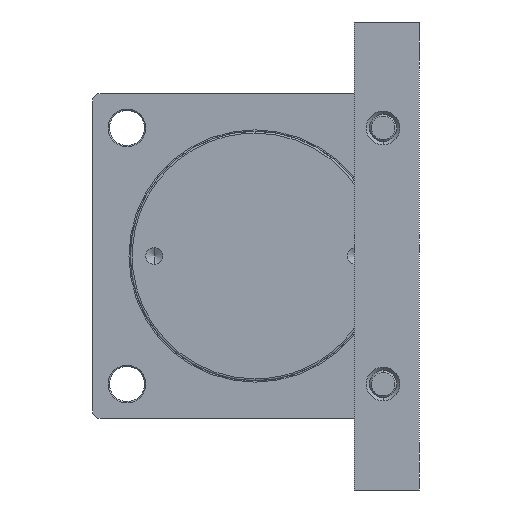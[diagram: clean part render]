
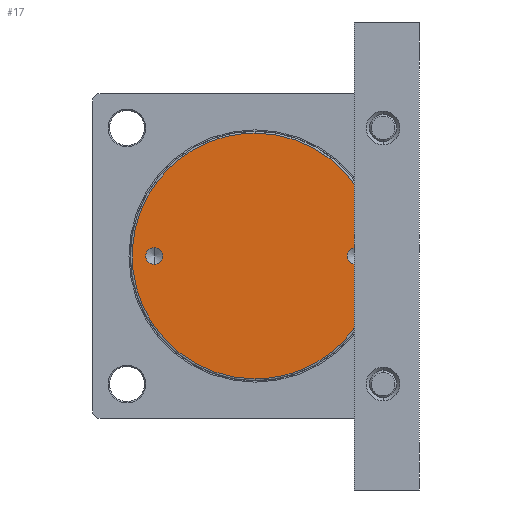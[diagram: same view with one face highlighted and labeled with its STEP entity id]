
A CAD part, left-side view. The second image highlights one B-rep face of the part: STEP entity #17.
In plain terms, the highlighted planar face has unit normal (-1, 0, 0).
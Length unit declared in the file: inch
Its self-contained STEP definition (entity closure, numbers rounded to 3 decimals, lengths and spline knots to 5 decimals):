
#17 = ADVANCED_FACE ( 'NONE', ( #13945, #14095, #13587 ), #13004, .F. ) ;
#265 = EDGE_LOOP ( 'NONE', ( #3309, #19836 ) ) ;
#1119 = CIRCLE ( 'NONE', #11652, 0.25591 ) ;
#1510 = ORIENTED_EDGE ( 'NONE', *, *, #15191, .F. ) ;
#1578 = CARTESIAN_POINT ( 'NONE',  ( -1.43701, 0., 3.72047 ) ) ;
#1613 = CARTESIAN_POINT ( 'NONE',  ( -1.43701, 0., -3.72047 ) ) ;
#1829 = AXIS2_PLACEMENT_3D ( 'NONE', #24599, #24556, #24524 ) ;
#1903 = CARTESIAN_POINT ( 'NONE',  ( -1.43701, 7.44094, -3.72047 ) ) ;
#2049 = CARTESIAN_POINT ( 'NONE',  ( -1.43701, 7.44094, 3.72047 ) ) ;
#2308 = ORIENTED_EDGE ( 'NONE', *, *, #15334, .F. ) ;
#3309 = ORIENTED_EDGE ( 'NONE', *, *, #10534, .F. ) ;
#4168 = CARTESIAN_POINT ( 'NONE',  ( -1.43701, -3.05118, 0. ) ) ;
#4443 =( BOUNDED_CURVE ( )  B_SPLINE_CURVE ( 3, ( #15209, #14913, #14767, #14741 ),
 .UNSPECIFIED., .F., .F. ) 
 B_SPLINE_CURVE_WITH_KNOTS ( ( 4, 4 ),
 ( 0., 1. ),
 .UNSPECIFIED. ) 
 CURVE ( )  GEOMETRIC_REPRESENTATION_ITEM ( )  RATIONAL_B_SPLINE_CURVE ( ( 1., 0.333, 0.333, 1. ) ) 
 REPRESENTATION_ITEM ( '' )  );
#6068 = VERTEX_POINT ( 'NONE', #8933 ) ;
#6888 = CARTESIAN_POINT ( 'NONE',  ( -1.43701, 0., 3.72047 ) ) ;
#7840 = DIRECTION ( 'NONE',  ( -1., 0., 0. ) ) ;
#8039 = DIRECTION ( 'NONE',  ( 0., 0., 1. ) ) ;
#8060 = DIRECTION ( 'NONE',  ( -1., 0., 0. ) ) ;
#8090 = CARTESIAN_POINT ( 'NONE',  ( -1.43701, -3.05118, 0. ) ) ;
#8278 = CARTESIAN_POINT ( 'NONE',  ( -1.43701, -3.05118, 0.25591 ) ) ;
#8933 = CARTESIAN_POINT ( 'NONE',  ( -1.43701, 3.05118, 0.25591 ) ) ;
#10534 = EDGE_CURVE ( 'NONE', #15340, #18687, #13738, .T. ) ;
#10881 = CIRCLE ( 'NONE', #21407, 0.25591 ) ;
#11652 = AXIS2_PLACEMENT_3D ( 'NONE', #4168, #7840, #15035 ) ;
#12266 = VERTEX_POINT ( 'NONE', #23712 ) ;
#12881 = DIRECTION ( 'NONE',  ( 0., 0., -1. ) ) ;
#13004 = PLANE ( 'NONE',  #14330 ) ;
#13028 = DIRECTION ( 'NONE',  ( 1., 0., 0. ) ) ;
#13033 = CARTESIAN_POINT ( 'NONE',  ( -1.43701, 0., 0. ) ) ;
#13587 = FACE_OUTER_BOUND ( 'NONE', #265, .T. ) ;
#13700 = EDGE_CURVE ( 'NONE', #18687, #15340, #4443, .T. ) ;
#13736 = EDGE_LOOP ( 'NONE', ( #1510, #2308 ) ) ;
#13738 =( BOUNDED_CURVE ( )  B_SPLINE_CURVE ( 3, ( #1613, #1903, #2049, #1578 ),
 .UNSPECIFIED., .F., .F. ) 
 B_SPLINE_CURVE_WITH_KNOTS ( ( 4, 4 ),
 ( 0., 1. ),
 .UNSPECIFIED. ) 
 CURVE ( )  GEOMETRIC_REPRESENTATION_ITEM ( )  RATIONAL_B_SPLINE_CURVE ( ( 1., 0.333, 0.333, 1. ) ) 
 REPRESENTATION_ITEM ( '' )  );
#13945 = FACE_BOUND ( 'NONE', #13736, .T. ) ;
#14095 = FACE_BOUND ( 'NONE', #14326, .T. ) ;
#14189 = AXIS2_PLACEMENT_3D ( 'NONE', #21713, #21654, #21623 ) ;
#14326 = EDGE_LOOP ( 'NONE', ( #17806, #21331 ) ) ;
#14330 = AXIS2_PLACEMENT_3D ( 'NONE', #13033, #13028, #12881 ) ;
#14741 = CARTESIAN_POINT ( 'NONE',  ( -1.43701, 0., -3.72047 ) ) ;
#14767 = CARTESIAN_POINT ( 'NONE',  ( -1.43701, -7.44094, -3.72047 ) ) ;
#14913 = CARTESIAN_POINT ( 'NONE',  ( -1.43701, -7.44094, 3.72047 ) ) ;
#15035 = DIRECTION ( 'NONE',  ( 0., 0., 1. ) ) ;
#15191 = EDGE_CURVE ( 'NONE', #6068, #15348, #23035, .T. ) ;
#15209 = CARTESIAN_POINT ( 'NONE',  ( -1.43701, 0., 3.72047 ) ) ;
#15334 = EDGE_CURVE ( 'NONE', #15348, #6068, #23786, .T. ) ;
#15340 = VERTEX_POINT ( 'NONE', #21882 ) ;
#15348 = VERTEX_POINT ( 'NONE', #21539 ) ;
#15694 = EDGE_CURVE ( 'NONE', #17948, #12266, #10881, .T. ) ;
#17015 = EDGE_CURVE ( 'NONE', #12266, #17948, #1119, .T. ) ;
#17806 = ORIENTED_EDGE ( 'NONE', *, *, #15694, .F. ) ;
#17948 = VERTEX_POINT ( 'NONE', #8278 ) ;
#18687 = VERTEX_POINT ( 'NONE', #6888 ) ;
#19836 = ORIENTED_EDGE ( 'NONE', *, *, #13700, .F. ) ;
#21331 = ORIENTED_EDGE ( 'NONE', *, *, #17015, .F. ) ;
#21407 = AXIS2_PLACEMENT_3D ( 'NONE', #8090, #8060, #8039 ) ;
#21539 = CARTESIAN_POINT ( 'NONE',  ( -1.43701, 3.05118, -0.25591 ) ) ;
#21623 = DIRECTION ( 'NONE',  ( 0., 0., 1. ) ) ;
#21654 = DIRECTION ( 'NONE',  ( -1., 0., 0. ) ) ;
#21713 = CARTESIAN_POINT ( 'NONE',  ( -1.43701, 3.05118, 0. ) ) ;
#21882 = CARTESIAN_POINT ( 'NONE',  ( -1.43701, 0., -3.72047 ) ) ;
#23035 = CIRCLE ( 'NONE', #1829, 0.25591 ) ;
#23712 = CARTESIAN_POINT ( 'NONE',  ( -1.43701, -3.05118, -0.25591 ) ) ;
#23786 = CIRCLE ( 'NONE', #14189, 0.25591 ) ;
#24524 = DIRECTION ( 'NONE',  ( 0., 0., 1. ) ) ;
#24556 = DIRECTION ( 'NONE',  ( -1., 0., 0. ) ) ;
#24599 = CARTESIAN_POINT ( 'NONE',  ( -1.43701, 3.05118, 0. ) ) ;
